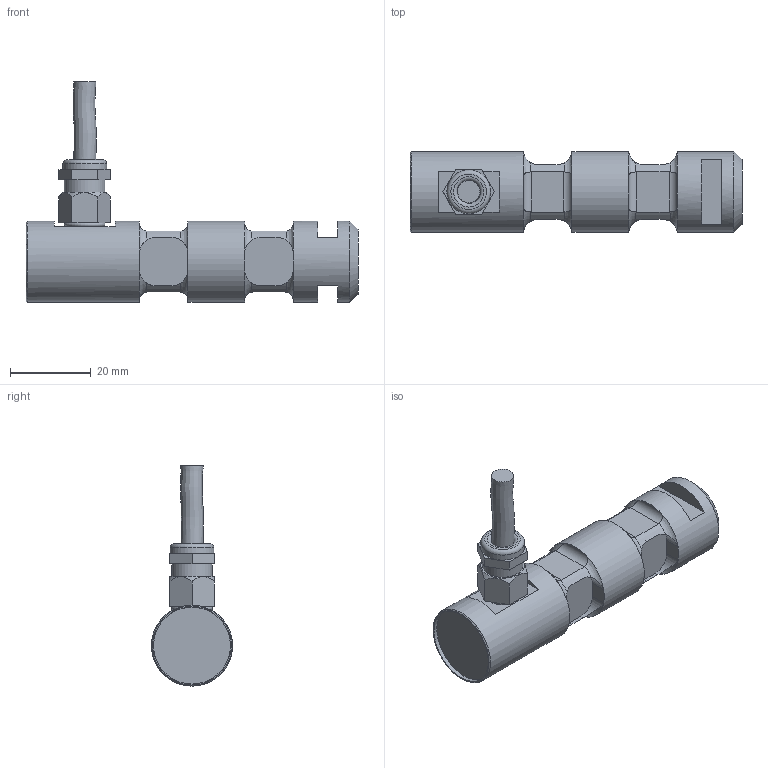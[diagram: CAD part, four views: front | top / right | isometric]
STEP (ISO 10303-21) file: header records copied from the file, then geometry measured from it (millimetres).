
FILE_DESCRIPTION(/* description */ ('Alibre Inc.'),/* implementation_level */ '2;1');
FILE_NAME(/* name */ 'export0',/* time_stamp */ '2014-04-15T15:14:25+02:00',/* author */ (''),/* organization */ (''),/* preprocessor_version */ 'ST-DEVELOPER v14',/* originating_system */ 'Alibre',/* authorisation */ '');
FILE_SCHEMA (('CONFIG_CONTROL_DESIGN'));
Length unit declared in the file: centimetre
Products named in the file (6): ID_1; ID_2; ID_3
Bounding box: 82 x 20 x 54.39 mm (x, y, z)
Volume: 23164 mm3; surface area: 8045.7 mm2
Topology: 4 solids, 4 shells, 131 faces, 310 edges, 193 vertices
Faces by surface type: plane 65, cylinder 41, torus 19, cone 5, bspline 1
Full cylindrical faces by diameter (mm): 5.5 x1, 6.917 x1, 8 x1, 10 x1, 10.8 x1, 19 x1, 20 x3
Entity records: 8331 total; most frequent: CARTESIAN_POINT 5177, ORIENTED_EDGE 572, DIRECTION 410, EDGE_CURVE 286, VERTEX_POINT 188, AXIS2_PLACEMENT_3D 177, FACE_BOUND 158, EDGE_LOOP 157
